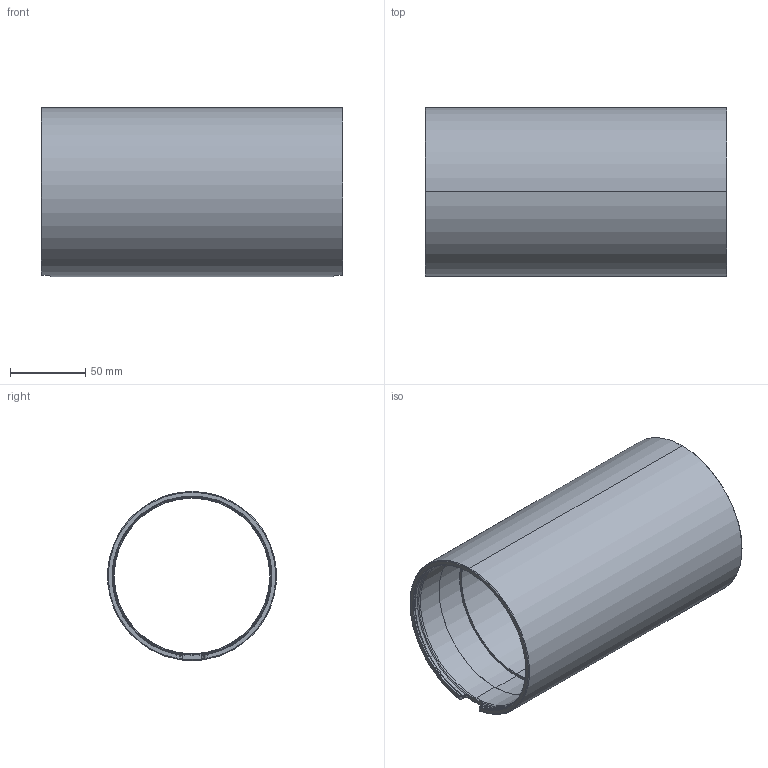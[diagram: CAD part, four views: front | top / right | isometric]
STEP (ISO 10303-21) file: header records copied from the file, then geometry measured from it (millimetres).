
FILE_DESCRIPTION (( 'STEP AP214' ), '1' );
FILE_NAME ('BR-100195-200_RevC.STEP', '2025-03-03T21:21:16', ( '' ), ( '' ), 'SwSTEP 2.0', 'SolidWorks 2024', '' );
FILE_SCHEMA (( 'AUTOMOTIVE_DESIGN' ));
Length unit declared in the file: millimetre
Products named in the file (1): BR-100195-200_RevC
Bounding box: 200 x 111.63 x 112 mm (x, y, z)
Volume: 269254.5 mm3; surface area: 139427.3 mm2
Topology: 1 solids, 1 shells, 94 faces, 240 edges, 150 vertices
Faces by surface type: cylinder 24, bspline 24, cone 18, plane 16, torus 12
Entity records: 5910 total; most frequent: CARTESIAN_POINT 3860, ORIENTED_EDGE 480, DIRECTION 342, EDGE_CURVE 240, VERTEX_POINT 150, AXIS2_PLACEMENT_3D 147, B_SPLINE_CURVE_WITH_KNOTS 112, EDGE_LOOP 98
